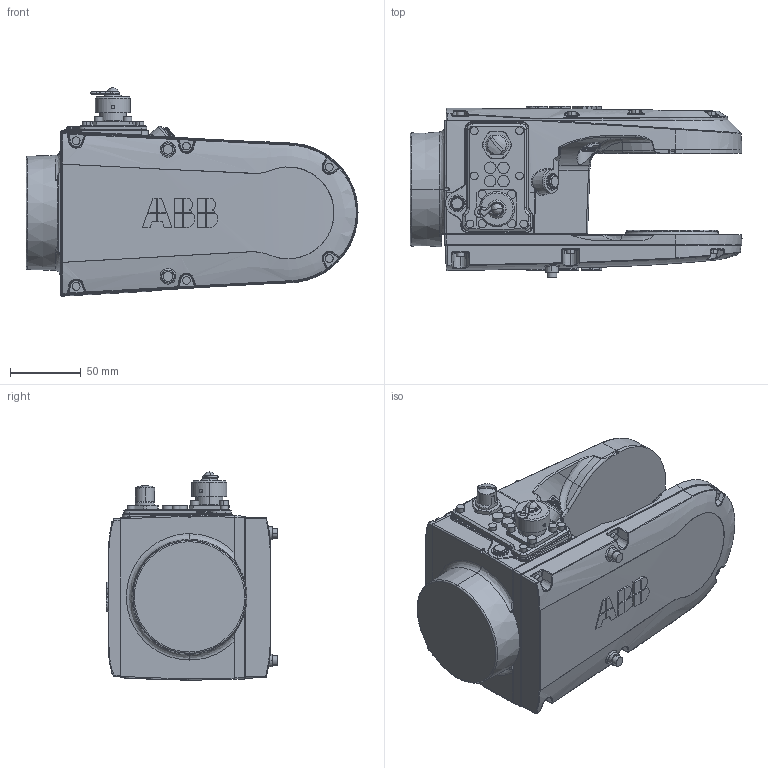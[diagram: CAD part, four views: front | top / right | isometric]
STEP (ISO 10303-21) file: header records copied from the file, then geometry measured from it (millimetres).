
FILE_DESCRIPTION (( 'STEP AP214' ), '1' );
FILE_NAME ('IRB1200H_5-90_IRC5_Link4_rev0.step', '2022-01-17T08:44:03', ( '' ), ( '' ), 'SwSTEP 2.0', 'SolidWorks 2020', '' );
FILE_SCHEMA (( 'AUTOMOTIVE_DESIGN' ));
Length unit declared in the file: millimetre
Products named in the file (1): IRB1200H_5-90_IRC5_Link4_rev0
Bounding box: 234.97 x 121.5 x 147.44 mm (x, y, z)
Volume: 1790088.1 mm3; surface area: 127960 mm2
Topology: 1 solids, 1 shells, 1045 faces, 2524 edges, 1548 vertices
Faces by surface type: bspline 411, plane 310, cylinder 253, cone 67, torus 3, sphere 1
Entity records: 52552 total; most frequent: CARTESIAN_POINT 29723, ORIENTED_EDGE 5014, DIRECTION 3635, EDGE_CURVE 2507, VERTEX_POINT 1548, AXIS2_PLACEMENT_3D 1399, EDGE_LOOP 1129, ADVANCED_FACE 1045
